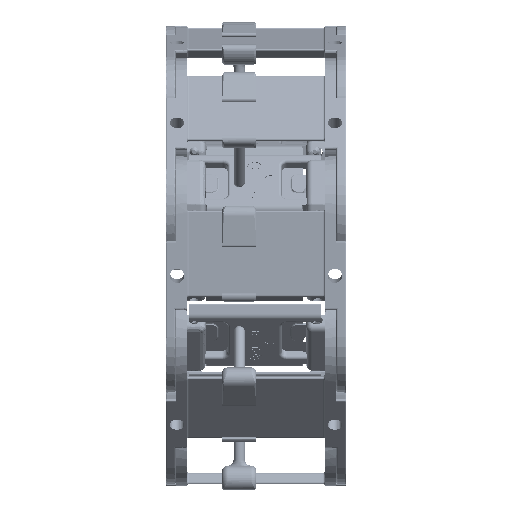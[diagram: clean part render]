
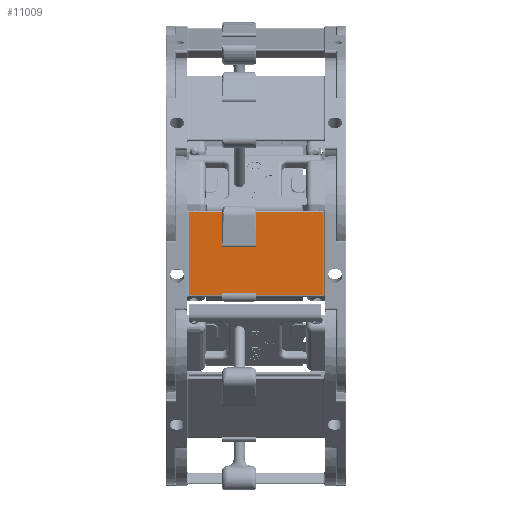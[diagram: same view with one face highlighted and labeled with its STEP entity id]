
A CAD part, front view. The second image highlights one B-rep face of the part: STEP entity #11009.
In plain terms, the highlighted planar face has unit normal (0, -0.999, -0.033) as drawn and (0.132, 0, 0.991) by its records, which use the part's own axes.
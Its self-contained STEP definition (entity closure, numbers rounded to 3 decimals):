
#10796=CARTESIAN_POINT('',(73.666,4.466,131.288));
#10797=VERTEX_POINT('',#10796);
#10867=CARTESIAN_POINT('',(44.922,4.466,135.129));
#10868=VERTEX_POINT('',#10867);
#10869=CARTESIAN_POINT('',(73.666,4.466,131.288));
#10870=DIRECTION('',(-0.991,0.,0.132));
#10871=VECTOR('',#10870,29.);
#10872=LINE('',#10869,#10871);
#10873=EDGE_CURVE('',#10797,#10868,#10872,.T.);
#10979=CARTESIAN_POINT('',(74.685,3.966,131.152));
#10980=DIRECTION('',(0.132,0.,0.991));
#10981=DIRECTION('',(0.0,1.0,0.0));
#10982=AXIS2_PLACEMENT_3D('',#10979,#10980,#10981);
#10983=PLANE('',#10982);
#10984=ORIENTED_EDGE('',*,*,#10873,.F.);
#10985=CARTESIAN_POINT('',(73.666,51.466,131.288));
#10986=VERTEX_POINT('',#10985);
#10987=CARTESIAN_POINT('',(73.666,51.466,131.288));
#10988=DIRECTION('',(0.0,-1.0,0.0));
#10989=VECTOR('',#10988,47.);
#10990=LINE('',#10987,#10989);
#10991=EDGE_CURVE('',#10986,#10797,#10990,.T.);
#10992=ORIENTED_EDGE('',*,*,#10991,.F.);
#10993=CARTESIAN_POINT('',(44.922,51.466,135.129));
#10994=VERTEX_POINT('',#10993);
#10995=CARTESIAN_POINT('',(44.922,51.466,135.129));
#10996=DIRECTION('',(0.991,0.,-0.132));
#10997=VECTOR('',#10996,29.);
#10998=LINE('',#10995,#10997);
#10999=EDGE_CURVE('',#10994,#10986,#10998,.T.);
#11000=ORIENTED_EDGE('',*,*,#10999,.F.);
#11001=CARTESIAN_POINT('',(44.922,4.466,135.129));
#11002=DIRECTION('',(0.0,1.0,0.0));
#11003=VECTOR('',#11002,47.);
#11004=LINE('',#11001,#11003);
#11005=EDGE_CURVE('',#10868,#10994,#11004,.T.);
#11006=ORIENTED_EDGE('',*,*,#11005,.F.);
#11007=EDGE_LOOP('',(#10984,#10992,#11000,#11006));
#11008=FACE_OUTER_BOUND('',#11007,.T.);
#11009=ADVANCED_FACE('',(#11008),#10983,.T.);
